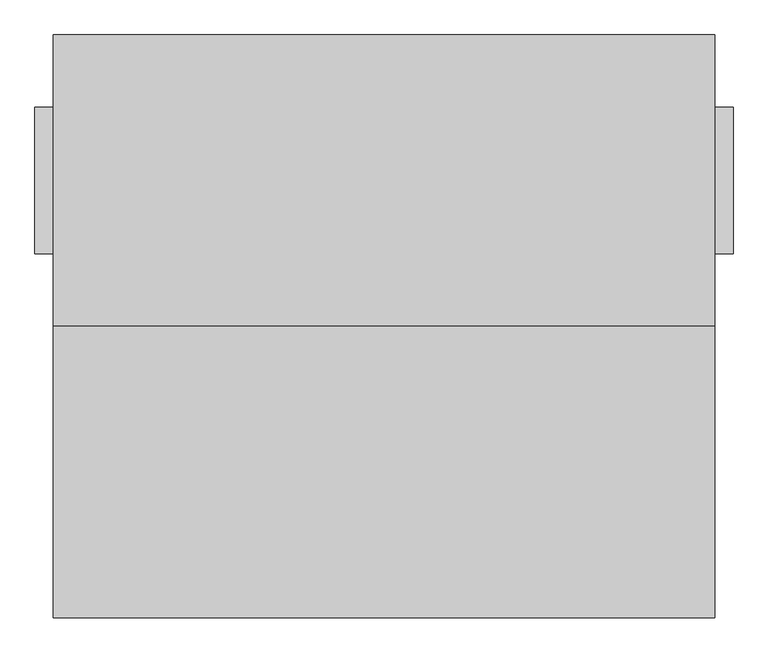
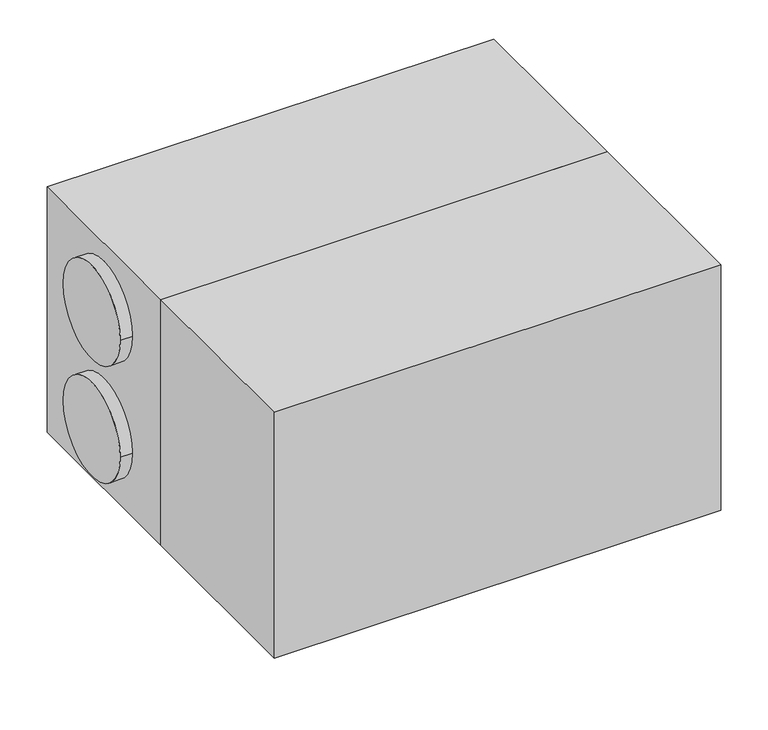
"""IFC4 building model written with IfcOpenShell, lengths in millimetres: proxy geometry, ADSK_КПВУ BRISSAGO HPE_круглая : Brissago HPE 2000."""

from ifc_helpers import new_model, si_unit, point, frame, frame_2d, origin, place, context, project, spatial, polyline, circle_curve, trimmed, segment, composite_curve, outline, extrude, source, transform, mapped, element, save


def mechanical_equipment_5558e5c0(model_context):
    return source(origin(), model_context, "Body", "SweptSolid", [
        extrude(outline(polyline([(1168.5, -397.5), (1168.5, -1192.5), (-636.5, -1192.5), (-636.5, -397.5), (1168.5, -397.5)])), frame((0.0, 0.0, 140.0), z_axis=(0.0, 0.0, 1.0), x_axis=(1.0, 0.0, 0.0)), (0.0, 0.0, 1.0), 1050.0),
        extrude(outline(polyline([(1168.5, 397.5), (1168.5, -397.5), (-636.5, -397.5), (-636.5, 397.5), (1168.5, 397.5)])), frame((0.0, 0.0, 140.0), z_axis=(0.0, 0.0, 1.0), x_axis=(1.0, 0.0, 0.0)), (0.0, 0.0, 1.0), 1050.0),
        extrude(outline(composite_curve([segment(trimmed(circle_curve(frame_2d((0.0, 914.0)), 200.0), [point((-200.0, 914.0))], [point((200.0, 914.0))], False, "CARTESIAN"), True, "CONTINUOUS"), segment(trimmed(circle_curve(frame_2d((0.0, 914.0)), 200.0), [point((200.0, 914.0))], [point((-200.0, 914.0))], False, "CARTESIAN"), True, "CONTINUOUS")], self_intersect=False)), frame((-686.5, 0.0, 0.0), z_axis=(1.0, 0.0, 0.0), x_axis=(0.0, 1.0, 0.0)), (0.0, 0.0, 1.0), 50.0),
        extrude(outline(composite_curve([segment(trimmed(circle_curve(frame_2d((0.0, 414.0)), 200.0), [point((-200.0, 414.0))], [point((200.0, 414.0))], False, "CARTESIAN"), True, "CONTINUOUS"), segment(trimmed(circle_curve(frame_2d((0.0, 414.0)), 200.0), [point((200.0, 414.0))], [point((-200.0, 414.0))], False, "CARTESIAN"), True, "CONTINUOUS")], self_intersect=False)), frame((-686.5, 0.0, 0.0), z_axis=(1.0, 0.0, 0.0), x_axis=(0.0, 1.0, 0.0)), (0.0, 0.0, 1.0), 50.0),
        extrude(outline(composite_curve([segment(trimmed(circle_curve(frame_2d((0.0, 914.0)), 200.0), [point((-200.0, 914.0))], [point((200.0, 914.0))], False, "CARTESIAN"), True, "CONTINUOUS"), segment(trimmed(circle_curve(frame_2d((0.0, 914.0)), 200.0), [point((200.0, 914.0))], [point((-200.0, 914.0))], False, "CARTESIAN"), True, "CONTINUOUS")], self_intersect=False)), frame((1168.5, 0.0, 0.0), z_axis=(1.0, 0.0, 0.0), x_axis=(0.0, 1.0, 0.0)), (0.0, 0.0, 1.0), 50.0),
        extrude(outline(composite_curve([segment(trimmed(circle_curve(frame_2d((0.0, 414.0)), 200.0), [point((-200.0, 414.0))], [point((200.0, 414.0))], False, "CARTESIAN"), True, "CONTINUOUS"), segment(trimmed(circle_curve(frame_2d((0.0, 414.0)), 200.0), [point((200.0, 414.0))], [point((-200.0, 414.0))], False, "CARTESIAN"), True, "CONTINUOUS")], self_intersect=False)), frame((1168.5, 0.0, 0.0), z_axis=(1.0, 0.0, 0.0), x_axis=(0.0, 1.0, 0.0)), (0.0, 0.0, 1.0), 50.0),
        extrude(outline(polyline([(0.0, -456.5), (140.0, -456.5), (140.0, -466.5), (10.0, -466.5), (10.0, -506.5), (140.0, -506.5), (140.0, -516.5), (0.0, -516.5), (0.0, -456.5)])), frame((0.0, -397.5, 0.0), z_axis=(0.0, 1.0, 0.0), x_axis=(0.0, 0.0, 1.0)), (0.0, 0.0, 1.0), 795.0),
        extrude(outline(polyline([(0.0, 1048.5), (140.0, 1048.5), (140.0, 1038.5), (10.0, 1038.5), (10.0, 998.5), (140.0, 998.5), (140.0, 988.5), (0.0, 988.5), (0.0, 1048.5)])), frame((0.0, -397.5, 0.0), z_axis=(0.0, 1.0, 0.0), x_axis=(0.0, 0.0, 1.0)), (0.0, 0.0, 1.0), 795.0),
    ])


if __name__ == "__main__":
    model = new_model("IFC4")
    model_context = context("Model", 3, world=origin())
    ifc_project = project(units=[si_unit("LENGTHUNIT", "METRE", prefix="MILLI")], contexts=[model_context])
    site = spatial("IfcSite", under=ifc_project)
    building = spatial("IfcBuilding", under=site)
    placement = place(None, origin())
    mechanical_equipment_shape = mechanical_equipment_5558e5c0(model_context)
    element("IfcBuildingElementProxy", 1, Name="ADSK_КПВУ BRISSAGO HPE_круглая : Brissago HPE 2000", ObjectType="ADSK_КПВУ BRISSAGO HPE_круглая : Brissago HPE 2000", at=placement, inside=building, context=model_context, shape_type="MappedRepresentation", body=[
        mapped(mechanical_equipment_shape, transform((0.0, 0.0, 0.0), x_axis=(1.0, 0.0, 0.0), y_axis=(0.0, 1.0, 0.0), z_axis=(0.0, 0.0, 1.0))),
    ])
    save(model, "model.ifc")
